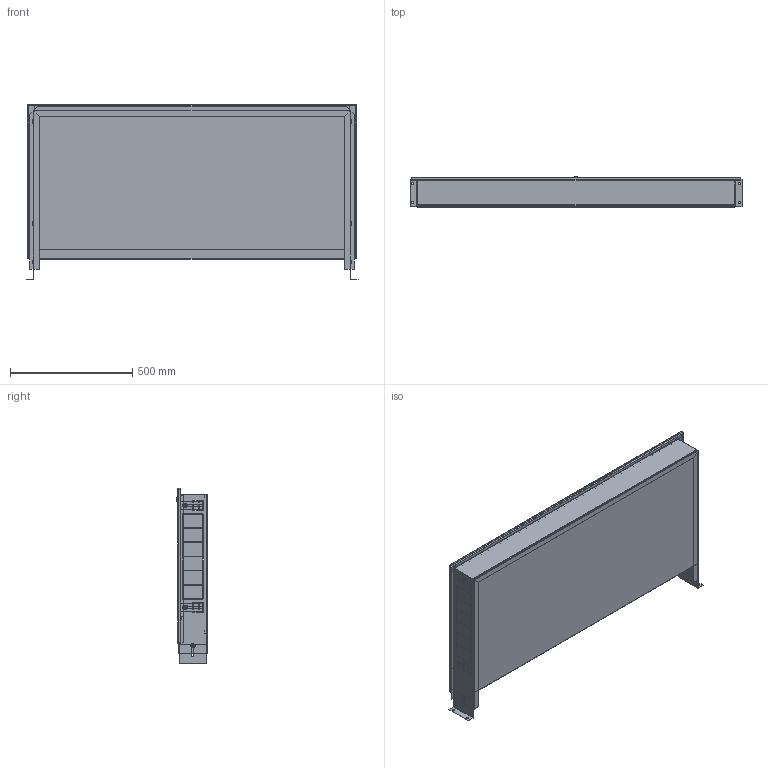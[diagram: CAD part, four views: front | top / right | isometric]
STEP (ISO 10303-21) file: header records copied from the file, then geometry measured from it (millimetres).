
FILE_DESCRIPTION(('TFLEX Exchange Step'),'2;1');
FILE_NAME('Manifold cabinet VTc.540.0.07 Valtec.stp', '2023-10-11T14:44:31+03:00',('denis'),('Unknown organisation'),'TFLEX Exchange 2023.0','T-FLEX CAD','Unknown authorisation');
FILE_SCHEMA( ('AUTOMOTIVE_DESIGN { 1 0 10303 214 1 1 1 1 }') );
Length unit declared in the file: millimetre
Products named in the file (1): Nodes
Bounding box: 1360 x 124.1 x 719 mm (x, y, z)
Volume: 1839249 mm3; surface area: 4476252.3 mm2
Topology: 14 solids, 15 shells, 784 faces, 2075 edges, 1345 vertices
Faces by surface type: plane 592, cylinder 127, cone 43, bspline 12, torus 6, sphere 4
Full cylindrical faces by diameter (mm): 6 x12, 6.4 x6, 7 x2, 10 x5, 12 x1, 14 x4, 16 x1, 18 x6, 20 x2
Entity records: 27234 total; most frequent: CARTESIAN_POINT 7580, ORIENTED_EDGE 4142, DIRECTION 3793, EDGE_CURVE 2071, VECTOR 1535, LINE 1535, VERTEX_POINT 1345, AXIS2_PLACEMENT_3D 1129
